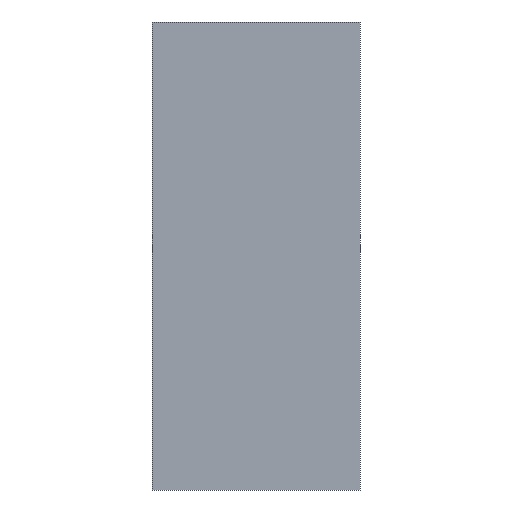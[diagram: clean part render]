
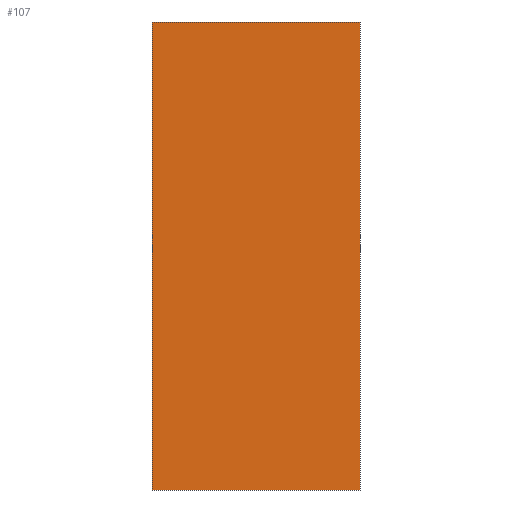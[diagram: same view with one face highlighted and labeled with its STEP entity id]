
A CAD part, front view. The second image highlights one B-rep face of the part: STEP entity #107.
In plain terms, the highlighted planar face has unit normal (0, -1, 0).
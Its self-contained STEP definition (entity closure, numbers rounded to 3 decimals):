
#21=FACE_OUTER_BOUND('',#27,.T.);
#27=EDGE_LOOP('',(#92,#93,#94,#95));
#30=LINE('',#162,#42);
#33=LINE('',#168,#45);
#36=LINE('',#174,#48);
#39=LINE('',#178,#51);
#42=VECTOR('',#134,10.);
#45=VECTOR('',#139,10.);
#48=VECTOR('',#144,10.);
#51=VECTOR('',#149,10.);
#54=VERTEX_POINT('',#159);
#55=VERTEX_POINT('',#161);
#57=VERTEX_POINT('',#167);
#59=VERTEX_POINT('',#173);
#62=EDGE_CURVE('',#55,#54,#30,.T.);
#65=EDGE_CURVE('',#57,#55,#33,.T.);
#68=EDGE_CURVE('',#59,#57,#36,.T.);
#71=EDGE_CURVE('',#54,#59,#39,.T.);
#92=ORIENTED_EDGE('',*,*,#71,.T.);
#93=ORIENTED_EDGE('',*,*,#68,.T.);
#94=ORIENTED_EDGE('',*,*,#65,.T.);
#95=ORIENTED_EDGE('',*,*,#62,.T.);
#101=PLANE('',#127);
#107=ADVANCED_FACE('',(#21),#101,.T.);
#127=AXIS2_PLACEMENT_3D('',#180,#152,#153);
#134=DIRECTION('',(0.,0.,1.));
#139=DIRECTION('',(1.,0.,0.));
#144=DIRECTION('',(0.,0.,-1.));
#149=DIRECTION('',(-1.,0.,0.));
#152=DIRECTION('center_axis',(0.,-1.,0.));
#153=DIRECTION('ref_axis',(0.,0.,-1.));
#159=CARTESIAN_POINT('',(560.,-100.,1260.));
#161=CARTESIAN_POINT('',(560.,-100.,0.));
#162=CARTESIAN_POINT('',(560.,-100.,0.));
#167=CARTESIAN_POINT('',(0.,-100.,0.));
#168=CARTESIAN_POINT('',(0.,-100.,0.));
#173=CARTESIAN_POINT('',(0.,-100.,1260.));
#174=CARTESIAN_POINT('',(0.,-100.,1260.));
#178=CARTESIAN_POINT('',(560.,-100.,1260.));
#180=CARTESIAN_POINT('Origin',(280.,-100.,630.));
